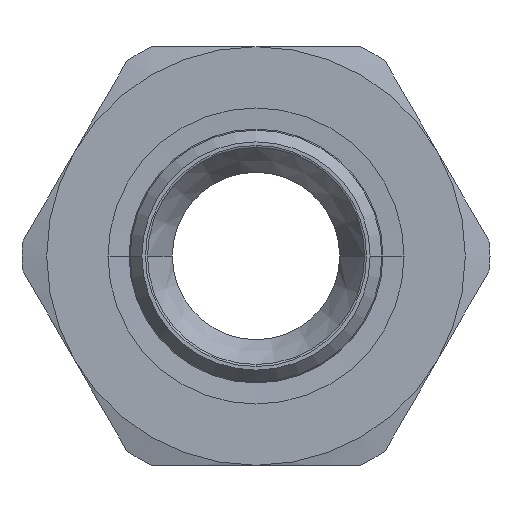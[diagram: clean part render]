
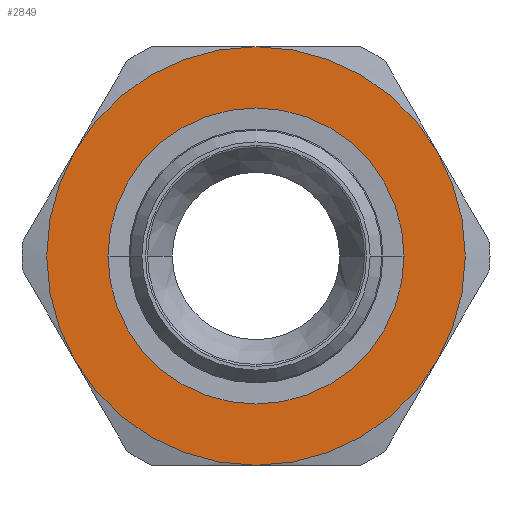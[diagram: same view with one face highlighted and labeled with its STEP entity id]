
A CAD part, left-side view. The second image highlights one B-rep face of the part: STEP entity #2849.
In plain terms, the highlighted planar face has unit normal (-1, 0, 0) as drawn and (0, 0, 1) by its records, which use the part's own axes.
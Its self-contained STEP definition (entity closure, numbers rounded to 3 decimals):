
#1176=CARTESIAN_POINT('',(0.,-19.45,7.));
#1177=VERTEX_POINT('',#1176);
#1193=CARTESIAN_POINT('',(0.,19.45,7.0));
#1194=VERTEX_POINT('',#1193);
#1201=CARTESIAN_POINT('',(0.,0.,7.0));
#1202=DIRECTION('',(0.0,0.0,-1.0));
#1203=DIRECTION('',(0.0,-1.0,0.0));
#1204=AXIS2_PLACEMENT_3D('',#1201,#1202,#1203);
#1205=CIRCLE('',#1204,19.45);
#1206=EDGE_CURVE('',#1177,#1194,#1205,.T.);
#1663=CARTESIAN_POINT('',(0.,0.,7.0));
#1664=DIRECTION('',(0.0,0.0,-1.0));
#1665=DIRECTION('',(0.0,-1.0,0.0));
#1666=AXIS2_PLACEMENT_3D('',#1663,#1664,#1665);
#1667=CIRCLE('',#1666,19.45);
#1668=EDGE_CURVE('',#1194,#1177,#1667,.T.);
#2222=CARTESIAN_POINT('',(13.75,-23.816,7.));
#2223=VERTEX_POINT('',#2222);
#2237=CARTESIAN_POINT('',(-13.75,-23.816,7.));
#2238=VERTEX_POINT('',#2237);
#2239=CARTESIAN_POINT('',(0.,0.0,7.0));
#2240=DIRECTION('',(0.0,0.0,1.0));
#2241=DIRECTION('',(1.0,0.0,0.0));
#2242=AXIS2_PLACEMENT_3D('',#2239,#2240,#2241);
#2243=CIRCLE('',#2242,27.5);
#2244=EDGE_CURVE('',#2238,#2223,#2243,.T.);
#2322=CARTESIAN_POINT('',(-27.5,0.,7.));
#2323=VERTEX_POINT('',#2322);
#2324=CARTESIAN_POINT('',(0.,0.0,7.0));
#2325=DIRECTION('',(0.0,0.0,1.0));
#2326=DIRECTION('',(1.0,0.0,0.0));
#2327=AXIS2_PLACEMENT_3D('',#2324,#2325,#2326);
#2328=CIRCLE('',#2327,27.5);
#2329=EDGE_CURVE('',#2323,#2238,#2328,.T.);
#2406=CARTESIAN_POINT('',(-13.75,23.816,7.));
#2407=VERTEX_POINT('',#2406);
#2408=CARTESIAN_POINT('',(0.,0.0,7.0));
#2409=DIRECTION('',(0.0,0.0,1.0));
#2410=DIRECTION('',(1.0,0.0,0.0));
#2411=AXIS2_PLACEMENT_3D('',#2408,#2409,#2410);
#2412=CIRCLE('',#2411,27.5);
#2413=EDGE_CURVE('',#2407,#2323,#2412,.T.);
#2490=CARTESIAN_POINT('',(13.75,23.816,7.));
#2491=VERTEX_POINT('',#2490);
#2492=CARTESIAN_POINT('',(0.,0.0,7.0));
#2493=DIRECTION('',(0.0,0.0,1.0));
#2494=DIRECTION('',(1.0,0.0,0.0));
#2495=AXIS2_PLACEMENT_3D('',#2492,#2493,#2494);
#2496=CIRCLE('',#2495,27.5);
#2497=EDGE_CURVE('',#2491,#2407,#2496,.T.);
#2575=CARTESIAN_POINT('',(27.5,0.0,7.));
#2576=VERTEX_POINT('',#2575);
#2577=CARTESIAN_POINT('',(0.,0.0,7.0));
#2578=DIRECTION('',(0.0,0.0,1.0));
#2579=DIRECTION('',(1.0,0.0,0.0));
#2580=AXIS2_PLACEMENT_3D('',#2577,#2578,#2579);
#2581=CIRCLE('',#2580,27.5);
#2582=EDGE_CURVE('',#2576,#2491,#2581,.T.);
#2659=CARTESIAN_POINT('',(0.,0.0,7.0));
#2660=DIRECTION('',(0.0,0.0,1.0));
#2661=DIRECTION('',(1.0,0.0,0.0));
#2662=AXIS2_PLACEMENT_3D('',#2659,#2660,#2661);
#2663=CIRCLE('',#2662,27.5);
#2664=EDGE_CURVE('',#2223,#2576,#2663,.T.);
#2832=CARTESIAN_POINT('',(0.,0.,7.0));
#2833=DIRECTION('',(0.0,0.0,1.0));
#2834=DIRECTION('',(1.0,0.0,0.0));
#2835=AXIS2_PLACEMENT_3D('',#2832,#2833,#2834);
#2836=PLANE('',#2835);
#2837=ORIENTED_EDGE('',*,*,#2664,.T.);
#2838=ORIENTED_EDGE('',*,*,#2582,.T.);
#2839=ORIENTED_EDGE('',*,*,#2497,.T.);
#2840=ORIENTED_EDGE('',*,*,#2413,.T.);
#2841=ORIENTED_EDGE('',*,*,#2329,.T.);
#2842=ORIENTED_EDGE('',*,*,#2244,.T.);
#2843=EDGE_LOOP('',(#2837,#2838,#2839,#2840,#2841,#2842));
#2844=FACE_OUTER_BOUND('',#2843,.T.);
#2845=ORIENTED_EDGE('',*,*,#1206,.T.);
#2846=ORIENTED_EDGE('',*,*,#1668,.T.);
#2847=EDGE_LOOP('',(#2845,#2846));
#2848=FACE_BOUND('',#2847,.T.);
#2849=ADVANCED_FACE('',(#2844,#2848),#2836,.T.);
